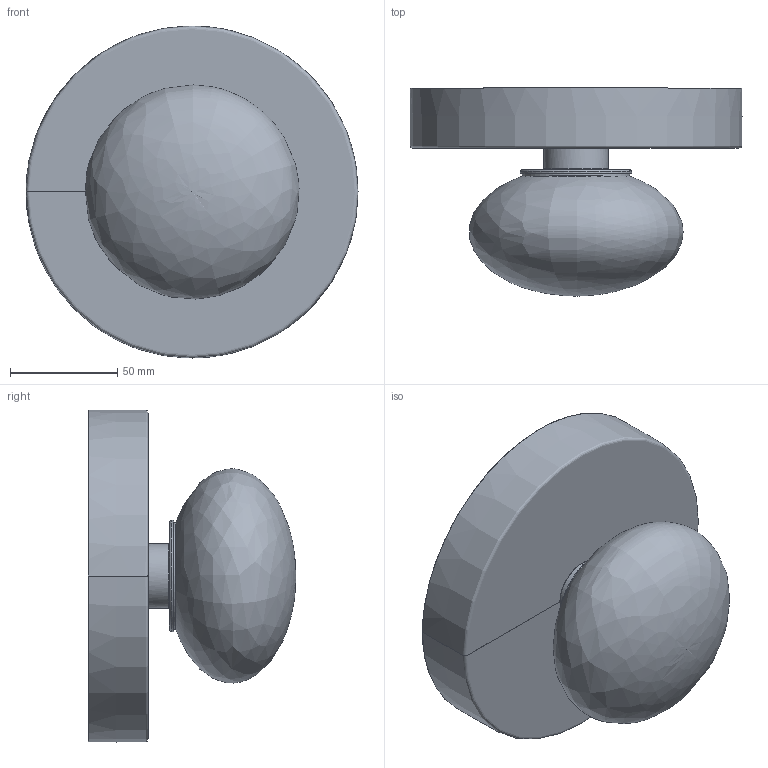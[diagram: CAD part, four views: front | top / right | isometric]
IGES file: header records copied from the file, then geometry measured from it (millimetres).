
Global section: file name: /Users/danielszollosi/Documents/SkLO/Sklo.com/3D models/WEB 3D Models/SkLO_Dot_Sconce_1_LTM02_3D.igs; native system: Rhinoceros ( Sep 24 2023 ); preprocessor: Trout Lake IGES 012 Sep 24 2023; date: 241021.081841; units: millimetre
Bounding box: 155 x 97.02 x 155 mm (x, y, z)
Surface area: 125380.6 mm2 (no closed solid volume)
Topology: 0 solids, 0 shells, 85 faces, 581 edges, 556 vertices
Faces by surface type: bspline 85
